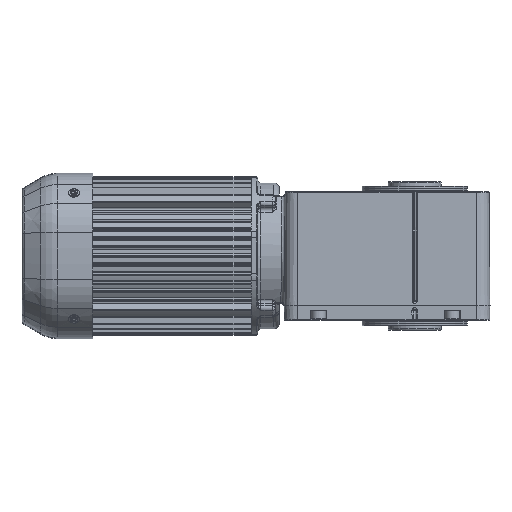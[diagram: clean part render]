
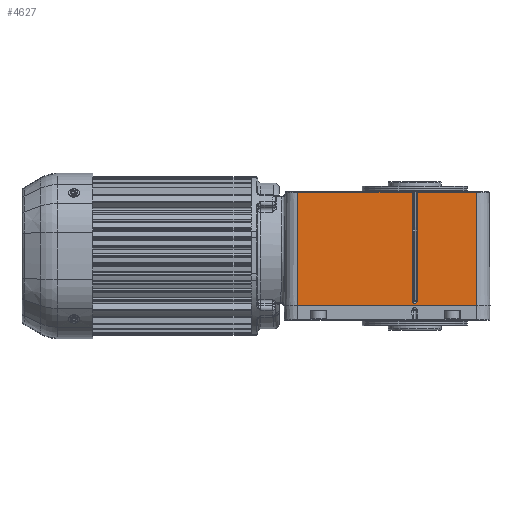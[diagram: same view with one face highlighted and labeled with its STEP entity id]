
A CAD part, top view. The second image highlights one B-rep face of the part: STEP entity #4627.
In plain terms, the highlighted planar face has unit normal (0, 0.009, 1).
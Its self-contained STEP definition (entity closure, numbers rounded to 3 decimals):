
#4627 = ADVANCED_FACE( '', ( #9606 ), #9607, .T. );
#9606 = FACE_OUTER_BOUND( '', #22074, .T. );
#9607 = PLANE( '', #22075 );
#22074 = EDGE_LOOP( '', ( #35465, #35466, #35467, #35468, #35469, #35470, #35471, #35472 ) );
#22075 = AXIS2_PLACEMENT_3D( '', #35473, #35474, #35475 );
#35465 = ORIENTED_EDGE( '', *, *, #39603, .F. );
#35466 = ORIENTED_EDGE( '', *, *, #40761, .F. );
#35467 = ORIENTED_EDGE( '', *, *, #40822, .T. );
#35468 = ORIENTED_EDGE( '', *, *, #39560, .T. );
#35469 = ORIENTED_EDGE( '', *, *, #38863, .T. );
#35470 = ORIENTED_EDGE( '', *, *, #40393, .T. );
#35471 = ORIENTED_EDGE( '', *, *, #40151, .T. );
#35472 = ORIENTED_EDGE( '', *, *, #37788, .T. );
#35473 = CARTESIAN_POINT( '', ( 124.5, -0.5, 135.092 ) );
#35474 = DIRECTION( '', ( 0., 0.009, 1. ) );
#35475 = DIRECTION( '', ( 0., -1., 0.009 ) );
#37788 = EDGE_CURVE( '', #44361, #44358, #44362, .T. );
#38863 = EDGE_CURVE( '', #45999, #46001, #46003, .F. );
#39560 = EDGE_CURVE( '', #46985, #45999, #46987, .F. );
#39603 = EDGE_CURVE( '', #47041, #44358, #47043, .T. );
#40151 = EDGE_CURVE( '', #47758, #44361, #47761, .T. );
#40393 = EDGE_CURVE( '', #46001, #47758, #48053, .F. );
#40761 = EDGE_CURVE( '', #48472, #47041, #48474, .T. );
#40822 = EDGE_CURVE( '', #48472, #46985, #48537, .T. );
#44358 = VERTEX_POINT( '', #55460 );
#44361 = VERTEX_POINT( '', #55463 );
#44362 = LINE( '', #55464, #55465 );
#45999 = VERTEX_POINT( '', #58118 );
#46001 = VERTEX_POINT( '', #58120 );
#46003 = CIRCLE( '', #58122, 2.322 );
#46985 = VERTEX_POINT( '', #60257 );
#46987 = LINE( '', #60259, #60260 );
#47041 = VERTEX_POINT( '', #60367 );
#47043 = LINE( '', #60369, #60370 );
#47758 = VERTEX_POINT( '', #61720 );
#47761 = LINE( '', #61724, #61725 );
#48053 = LINE( '', #62278, #62279 );
#48472 = VERTEX_POINT( '', #63152 );
#48474 = LINE( '', #63154, #63155 );
#48537 = LINE( '', #63241, #63242 );
#55460 = CARTESIAN_POINT( '', ( 42., 0., 135.088 ) );
#55463 = CARTESIAN_POINT( '', ( 42., 102.5, 134.193 ) );
#55464 = CARTESIAN_POINT( '', ( 42., -0.5, 135.092 ) );
#55465 = VECTOR( '', #66622, 1000. );
#58118 = CARTESIAN_POINT( '', ( 150.322, 4.5, 135.049 ) );
#58120 = CARTESIAN_POINT( '', ( 145.678, 4.495, 135.049 ) );
#58122 = AXIS2_PLACEMENT_3D( '', #68311, #68312, #68313 );
#60257 = CARTESIAN_POINT( '', ( 150.322, 102.5, 134.193 ) );
#60259 = CARTESIAN_POINT( '', ( 150.322, 4.5, 135.049 ) );
#60260 = VECTOR( '', #69242, 1000. );
#60367 = CARTESIAN_POINT( '', ( 204., 0., 135.088 ) );
#60369 = CARTESIAN_POINT( '', ( 124.5, 0., 135.088 ) );
#60370 = VECTOR( '', #69305, 1000. );
#61720 = CARTESIAN_POINT( '', ( 145.678, 102.5, 134.193 ) );
#61724 = CARTESIAN_POINT( '', ( 42., 102.5, 134.193 ) );
#61725 = VECTOR( '', #70070, 1000. );
#62278 = CARTESIAN_POINT( '', ( 145.678, 103.5, 134.185 ) );
#62279 = VECTOR( '', #70337, 1000. );
#63152 = CARTESIAN_POINT( '', ( 204., 102.5, 134.193 ) );
#63154 = CARTESIAN_POINT( '', ( 204., -0.5, 135.092 ) );
#63155 = VECTOR( '', #70700, 1000. );
#63241 = CARTESIAN_POINT( '', ( 150.322, 102.5, 134.193 ) );
#63242 = VECTOR( '', #70744, 1000. );
#66622 = DIRECTION( '', ( 0., -1., 0.009 ) );
#68311 = CARTESIAN_POINT( '', ( 148., 4.5, 135.049 ) );
#68312 = DIRECTION( '', ( 0., 0.009, 1. ) );
#68313 = DIRECTION( '', ( 0., -1., 0.009 ) );
#69242 = DIRECTION( '', ( 0., 1., -0.009 ) );
#69305 = DIRECTION( '', ( -1., 0., 0. ) );
#70070 = DIRECTION( '', ( -1., 0., 0. ) );
#70337 = DIRECTION( '', ( 0., -1., 0.009 ) );
#70700 = DIRECTION( '', ( 0., -1., 0.009 ) );
#70744 = DIRECTION( '', ( -1., 0., 0. ) );
